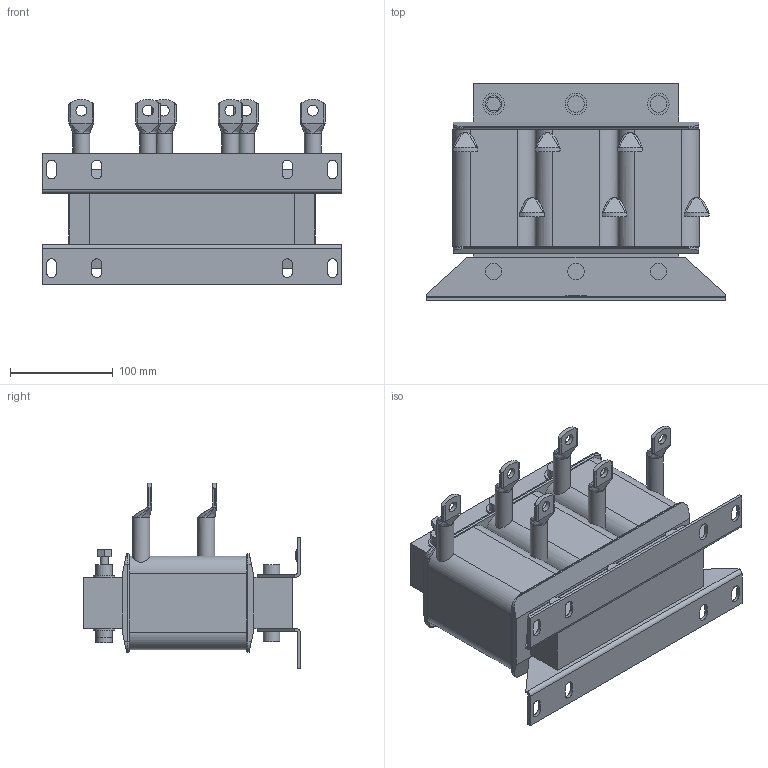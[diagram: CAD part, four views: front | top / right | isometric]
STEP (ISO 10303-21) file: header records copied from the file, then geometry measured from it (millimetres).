
FILE_DESCRIPTION (( 'STEP AP214' ), '1' );
FILE_NAME ('22Z1B03-1000.STEP', '2022-04-13T06:58:00', ( '' ), ( '' ), 'SwSTEP 2.0', 'SolidWorks 2019', '' );
FILE_SCHEMA (( 'AUTOMOTIVE_DESIGN' ));
Length unit declared in the file: millimetre
Products named in the file (1): 22Z1B03-1000
Bounding box: 291 x 210.6 x 180 mm (x, y, z)
Volume: 3626032.7 mm3; surface area: 287378.1 mm2
Topology: 1 solids, 1 shells, 354 faces, 930 edges, 599 vertices
Faces by surface type: plane 165, cylinder 120, bspline 61, torus 8
Full cylindrical faces by diameter (mm): 8 x1, 10.5 x6, 16 x12, 16.5 x6, 21 x6
Entity records: 15101 total; most frequent: CARTESIAN_POINT 6810, ORIENTED_EDGE 1772, DIRECTION 1404, EDGE_CURVE 886, VERTEX_POINT 586, AXIS2_PLACEMENT_3D 492, EDGE_LOOP 442, VECTOR 420
